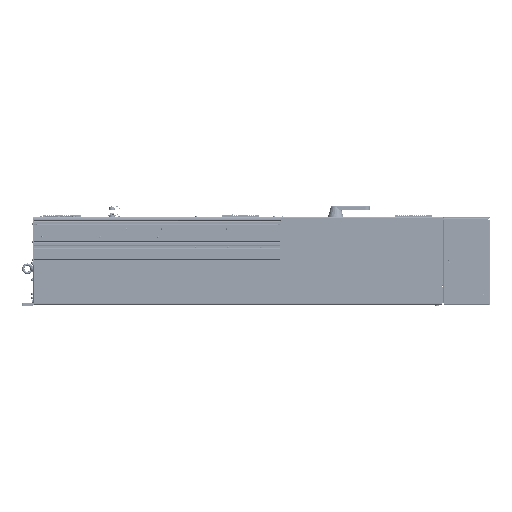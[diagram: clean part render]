
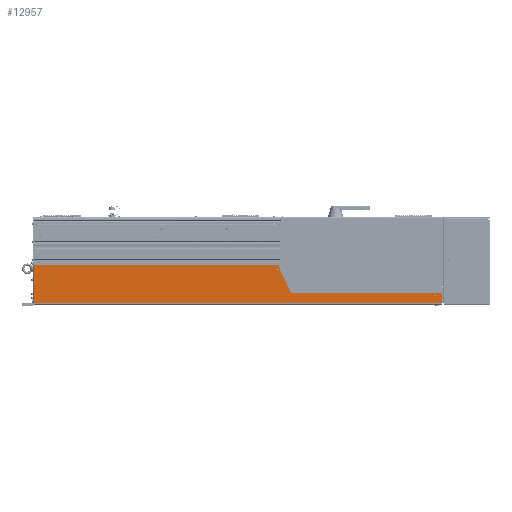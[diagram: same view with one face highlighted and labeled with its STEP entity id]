
A CAD part, left-side view. The second image highlights one B-rep face of the part: STEP entity #12957.
In plain terms, the highlighted planar face has unit normal (-1, 0, 0).
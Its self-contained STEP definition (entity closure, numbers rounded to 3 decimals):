
#4139=DIRECTION('',(0.,-1.,0.));
#4140=VECTOR('',#4139,1723.89);
#4141=CARTESIAN_POINT('',(-205.5,1048.89,4.8));
#4142=LINE('',#4141,#4140);
#6226=CARTESIAN_POINT('',(-205.5,-644.213,60.8));
#6227=DIRECTION('',(-1.,0.,0.));
#6228=DIRECTION('',(0.,0.,-1.));
#6229=AXIS2_PLACEMENT_3D('',#6226,#6227,#6228);
#6234=CARTESIAN_POINT('',(-205.5,-644.213,60.8));
#6235=DIRECTION('',(-1.,0.,0.));
#6236=DIRECTION('',(0.,0.,1.));
#6237=AXIS2_PLACEMENT_3D('',#6234,#6235,#6236);
#6242=CARTESIAN_POINT('',(-205.5,-444.213,60.8));
#6243=DIRECTION('',(-1.,0.,0.));
#6244=DIRECTION('',(0.,0.,-1.));
#6245=AXIS2_PLACEMENT_3D('',#6242,#6243,#6244);
#6250=CARTESIAN_POINT('',(-205.5,-444.213,60.8));
#6251=DIRECTION('',(-1.,0.,0.));
#6252=DIRECTION('',(0.,0.,1.));
#6253=AXIS2_PLACEMENT_3D('',#6250,#6251,#6252);
#6258=CARTESIAN_POINT('',(-205.5,-244.213,60.8));
#6259=DIRECTION('',(-1.,0.,0.));
#6260=DIRECTION('',(0.,0.,-1.));
#6261=AXIS2_PLACEMENT_3D('',#6258,#6259,#6260);
#6266=CARTESIAN_POINT('',(-205.5,-244.213,60.8));
#6267=DIRECTION('',(-1.,0.,0.));
#6268=DIRECTION('',(0.,0.,1.));
#6269=AXIS2_PLACEMENT_3D('',#6266,#6267,#6268);
#6274=CARTESIAN_POINT('',(-205.5,-44.213,60.8));
#6275=DIRECTION('',(-1.,0.,0.));
#6276=DIRECTION('',(0.,0.,-1.));
#6277=AXIS2_PLACEMENT_3D('',#6274,#6275,#6276);
#6282=CARTESIAN_POINT('',(-205.5,-44.213,60.8));
#6283=DIRECTION('',(-1.,0.,0.));
#6284=DIRECTION('',(0.,0.,1.));
#6285=AXIS2_PLACEMENT_3D('',#6282,#6283,#6284);
#6290=CARTESIAN_POINT('',(-205.5,-6.177,142.368));
#6291=DIRECTION('',(-1.,0.,0.));
#6292=DIRECTION('',(0.,1.,0.));
#6293=AXIS2_PLACEMENT_3D('',#6290,#6291,#6292);
#6298=CARTESIAN_POINT('',(-205.5,-6.177,142.368));
#6299=DIRECTION('',(-1.,0.,0.));
#6300=DIRECTION('',(0.,-1.,0.));
#6301=AXIS2_PLACEMENT_3D('',#6298,#6299,#6300);
#6306=CARTESIAN_POINT('',(-205.5,18.,148.));
#6307=DIRECTION('',(-1.,0.,0.));
#6308=DIRECTION('',(0.,0.,-1.));
#6309=AXIS2_PLACEMENT_3D('',#6306,#6307,#6308);
#6314=CARTESIAN_POINT('',(-205.5,18.,148.));
#6315=DIRECTION('',(-1.,0.,0.));
#6316=DIRECTION('',(0.,0.,1.));
#6317=AXIS2_PLACEMENT_3D('',#6314,#6315,#6316);
#6322=CARTESIAN_POINT('',(-205.5,-645.3,37.4));
#6323=DIRECTION('',(-1.,0.,0.));
#6324=DIRECTION('',(0.,0.,-1.));
#6325=AXIS2_PLACEMENT_3D('',#6322,#6323,#6324);
#6330=CARTESIAN_POINT('',(-205.5,-645.3,37.4));
#6331=DIRECTION('',(-1.,0.,0.));
#6332=DIRECTION('',(0.,0.,1.));
#6333=AXIS2_PLACEMENT_3D('',#6330,#6331,#6332);
#6338=CARTESIAN_POINT('',(-205.5,-4.567,165.8));
#6339=DIRECTION('',(-1.,0.,0.));
#6340=DIRECTION('',(0.,-0.83,0.558));
#6341=AXIS2_PLACEMENT_3D('',#6338,#6339,#6340);
#6346=DIRECTION('',(0.,0.689,0.725));
#6347=VECTOR('',#6346,10.546);
#6348=CARTESIAN_POINT('',(-205.5,-50.925,81.793));
#6349=LINE('',#6348,#6347);
#6353=DIRECTION('',(0.,-0.423,-0.906));
#6354=VECTOR('',#6353,3.);
#6355=CARTESIAN_POINT('',(-205.5,-50.925,81.793));
#6356=LINE('',#6355,#6354);
#6360=DIRECTION('',(0.,1.,0.));
#6361=VECTOR('',#6360,3.);
#6362=CARTESIAN_POINT('',(-205.5,-57.821,77.4));
#6363=LINE('',#6362,#6361);
#6367=DIRECTION('',(0.,0.948,0.318));
#6368=VECTOR('',#6367,10.546);
#6369=CARTESIAN_POINT('',(-205.5,-67.821,74.05));
#6370=LINE('',#6369,#6368);
#6374=DIRECTION('',(0.,0.,1.));
#6375=VECTOR('',#6374,69.25);
#6376=CARTESIAN_POINT('',(-205.5,-675.,4.8));
#6377=LINE('',#6376,#6375);
#6381=DIRECTION('',(0.,-1.,0.));
#6382=VECTOR('',#6381,4.567);
#6383=CARTESIAN_POINT('',(-205.5,0.,169.));
#6384=LINE('',#6383,#6382);
#6523=DIRECTION('',(0.,-0.423,-0.906));
#6524=VECTOR('',#6523,86.222);
#6525=CARTESIAN_POINT('',(-205.5,-7.224,167.584));
#6526=LINE('',#6525,#6524);
#6775=CARTESIAN_POINT('',(-205.5,-54.821,80.3));
#6776=DIRECTION('',(1.,0.,0.));
#6777=DIRECTION('',(0.,0.,-1.));
#6778=AXIS2_PLACEMENT_3D('',#6775,#6776,#6777);
#6827=DIRECTION('',(0.,-1.,0.));
#6828=VECTOR('',#6827,607.179);
#6829=CARTESIAN_POINT('',(-205.5,-67.821,74.05));
#6830=LINE('',#6829,#6828);
#7193=DIRECTION('',(0.,1.,0.));
#7194=VECTOR('',#7193,1048.89);
#7195=CARTESIAN_POINT('',(-205.5,0.,169.));
#7196=LINE('',#7195,#7194);
#7252=DIRECTION('',(0.,0.,1.));
#7253=VECTOR('',#7252,164.2);
#7254=CARTESIAN_POINT('',(-205.5,1048.89,4.8));
#7255=LINE('',#7254,#7253);
#7715=CARTESIAN_POINT('',(-205.5,1048.89,4.8));
#7717=VERTEX_POINT('',#7715);
#7718=CARTESIAN_POINT('',(-205.5,-675.,4.8));
#7719=VERTEX_POINT('',#7718);
#7750=CARTESIAN_POINT('',(-205.5,0.,169.));
#7751=CARTESIAN_POINT('',(-205.5,1048.89,169.));
#7752=VERTEX_POINT('',#7750);
#7753=VERTEX_POINT('',#7751);
#7762=CARTESIAN_POINT('',(-205.5,-675.,74.05));
#7763=VERTEX_POINT('',#7762);
#7764=CARTESIAN_POINT('',(-205.5,-67.821,74.05));
#7765=VERTEX_POINT('',#7764);
#7778=CARTESIAN_POINT('',(-205.5,-43.663,89.441));
#7779=VERTEX_POINT('',#7778);
#7930=CARTESIAN_POINT('',(-205.5,-644.213,57.625));
#7931=CARTESIAN_POINT('',(-205.5,-644.213,63.975));
#7932=VERTEX_POINT('',#7930);
#7933=VERTEX_POINT('',#7931);
#7946=CARTESIAN_POINT('',(-205.5,-444.213,57.625));
#7947=CARTESIAN_POINT('',(-205.5,-444.213,63.975));
#7948=VERTEX_POINT('',#7946);
#7949=VERTEX_POINT('',#7947);
#7962=CARTESIAN_POINT('',(-205.5,-244.213,57.625));
#7963=CARTESIAN_POINT('',(-205.5,-244.213,63.975));
#7964=VERTEX_POINT('',#7962);
#7965=VERTEX_POINT('',#7963);
#7978=CARTESIAN_POINT('',(-205.5,-44.213,57.625));
#7979=CARTESIAN_POINT('',(-205.5,-44.213,63.975));
#7980=VERTEX_POINT('',#7978);
#7981=VERTEX_POINT('',#7979);
#7994=CARTESIAN_POINT('',(-205.5,-3.002,142.368));
#7995=CARTESIAN_POINT('',(-205.5,-9.352,142.368));
#7996=VERTEX_POINT('',#7994);
#7997=VERTEX_POINT('',#7995);
#8042=CARTESIAN_POINT('',(-205.5,-7.224,167.584));
#8043=VERTEX_POINT('',#8042);
#8044=CARTESIAN_POINT('',(-205.5,-4.567,169.));
#8045=VERTEX_POINT('',#8044);
#8190=CARTESIAN_POINT('',(-205.5,-54.821,77.4));
#8192=VERTEX_POINT('',#8190);
#8194=CARTESIAN_POINT('',(-205.5,-52.193,79.074));
#8196=VERTEX_POINT('',#8194);
#8210=CARTESIAN_POINT('',(-205.5,-57.821,77.4));
#8211=VERTEX_POINT('',#8210);
#8212=CARTESIAN_POINT('',(-205.5,-50.925,81.793));
#8213=VERTEX_POINT('',#8212);
#8502=CARTESIAN_POINT('',(-205.5,-645.3,34.9));
#8503=CARTESIAN_POINT('',(-205.5,-645.3,39.9));
#8504=VERTEX_POINT('',#8502);
#8505=VERTEX_POINT('',#8503);
#8714=CARTESIAN_POINT('',(-205.5,18.,145.5));
#8715=CARTESIAN_POINT('',(-205.5,18.,150.5));
#8716=VERTEX_POINT('',#8714);
#8717=VERTEX_POINT('',#8715);
#12884=CARTESIAN_POINT('',(-205.5,640.742,0.));
#12885=DIRECTION('',(-1.,0.,0.));
#12886=DIRECTION('',(0.,-1.,0.));
#12887=AXIS2_PLACEMENT_3D('',#12884,#12885,#12886);
#12888=PLANE('',#12887);
#12890=ORIENTED_EDGE('',*,*,#12889,.F.);
#12892=ORIENTED_EDGE('',*,*,#12891,.T.);
#12894=ORIENTED_EDGE('',*,*,#12893,.F.);
#12896=ORIENTED_EDGE('',*,*,#12895,.T.);
#12898=ORIENTED_EDGE('',*,*,#12897,.F.);
#12900=ORIENTED_EDGE('',*,*,#12899,.F.);
#12902=ORIENTED_EDGE('',*,*,#12901,.F.);
#12904=ORIENTED_EDGE('',*,*,#12903,.T.);
#12906=ORIENTED_EDGE('',*,*,#12905,.F.);
#12907=ORIENTED_EDGE('',*,*,#11039,.F.);
#12909=ORIENTED_EDGE('',*,*,#12908,.T.);
#12911=ORIENTED_EDGE('',*,*,#12910,.F.);
#12913=ORIENTED_EDGE('',*,*,#12912,.T.);
#12914=EDGE_LOOP('',(#12890,#12892,#12894,#12896,#12898,#12900,#12902,#12904,
#12906,#12907,#12909,#12911,#12913));
#12915=FACE_OUTER_BOUND('',#12914,.F.);
#12917=ORIENTED_EDGE('',*,*,#12916,.T.);
#12919=ORIENTED_EDGE('',*,*,#12918,.T.);
#12920=EDGE_LOOP('',(#12917,#12919));
#12921=FACE_BOUND('',#12920,.F.);
#12923=ORIENTED_EDGE('',*,*,#12922,.T.);
#12925=ORIENTED_EDGE('',*,*,#12924,.T.);
#12926=EDGE_LOOP('',(#12923,#12925));
#12927=FACE_BOUND('',#12926,.F.);
#12929=ORIENTED_EDGE('',*,*,#12928,.T.);
#12931=ORIENTED_EDGE('',*,*,#12930,.T.);
#12932=EDGE_LOOP('',(#12929,#12931));
#12933=FACE_BOUND('',#12932,.F.);
#12935=ORIENTED_EDGE('',*,*,#12934,.T.);
#12937=ORIENTED_EDGE('',*,*,#12936,.T.);
#12938=EDGE_LOOP('',(#12935,#12937));
#12939=FACE_BOUND('',#12938,.F.);
#12941=ORIENTED_EDGE('',*,*,#12940,.T.);
#12943=ORIENTED_EDGE('',*,*,#12942,.T.);
#12944=EDGE_LOOP('',(#12941,#12943));
#12945=FACE_BOUND('',#12944,.F.);
#12947=ORIENTED_EDGE('',*,*,#12946,.T.);
#12949=ORIENTED_EDGE('',*,*,#12948,.T.);
#12950=EDGE_LOOP('',(#12947,#12949));
#12951=FACE_BOUND('',#12950,.F.);
#12952=ORIENTED_EDGE('',*,*,#12874,.T.);
#12954=ORIENTED_EDGE('',*,*,#12953,.T.);
#12955=EDGE_LOOP('',(#12952,#12954));
#12956=FACE_BOUND('',#12955,.F.);
#12957=ADVANCED_FACE('',(#12915,#12921,#12927,#12933,#12939,#12945,#12951,
#12956),#12888,.T.);
#6230=CIRCLE('',#6229,3.175);
#6238=CIRCLE('',#6237,3.175);
#6246=CIRCLE('',#6245,3.175);
#6254=CIRCLE('',#6253,3.175);
#6262=CIRCLE('',#6261,3.175);
#6270=CIRCLE('',#6269,3.175);
#6278=CIRCLE('',#6277,3.175);
#6286=CIRCLE('',#6285,3.175);
#6294=CIRCLE('',#6293,3.175);
#6302=CIRCLE('',#6301,3.175);
#6310=CIRCLE('',#6309,2.5);
#6318=CIRCLE('',#6317,2.5);
#6326=CIRCLE('',#6325,2.5);
#6334=CIRCLE('',#6333,2.5);
#6342=CIRCLE('',#6341,3.2);
#6779=CIRCLE('',#6778,2.9);
#11039=EDGE_CURVE('',#7717,#7719,#4142,.T.);
#12874=EDGE_CURVE('',#7932,#7933,#6230,.T.);
#12889=EDGE_CURVE('',#8043,#8045,#6342,.T.);
#12891=EDGE_CURVE('',#8043,#7779,#6526,.T.);
#12893=EDGE_CURVE('',#8213,#7779,#6349,.T.);
#12895=EDGE_CURVE('',#8213,#8196,#6356,.T.);
#12897=EDGE_CURVE('',#8192,#8196,#6779,.T.);
#12899=EDGE_CURVE('',#8211,#8192,#6363,.T.);
#12901=EDGE_CURVE('',#7765,#8211,#6370,.T.);
#12903=EDGE_CURVE('',#7765,#7763,#6830,.T.);
#12905=EDGE_CURVE('',#7719,#7763,#6377,.T.);
#12908=EDGE_CURVE('',#7717,#7753,#7255,.T.);
#12910=EDGE_CURVE('',#7752,#7753,#7196,.T.);
#12912=EDGE_CURVE('',#7752,#8045,#6384,.T.);
#12916=EDGE_CURVE('',#7948,#7949,#6246,.T.);
#12918=EDGE_CURVE('',#7949,#7948,#6254,.T.);
#12922=EDGE_CURVE('',#7964,#7965,#6262,.T.);
#12924=EDGE_CURVE('',#7965,#7964,#6270,.T.);
#12928=EDGE_CURVE('',#7980,#7981,#6278,.T.);
#12930=EDGE_CURVE('',#7981,#7980,#6286,.T.);
#12934=EDGE_CURVE('',#7996,#7997,#6294,.T.);
#12936=EDGE_CURVE('',#7997,#7996,#6302,.T.);
#12940=EDGE_CURVE('',#8716,#8717,#6310,.T.);
#12942=EDGE_CURVE('',#8717,#8716,#6318,.T.);
#12946=EDGE_CURVE('',#8504,#8505,#6326,.T.);
#12948=EDGE_CURVE('',#8505,#8504,#6334,.T.);
#12953=EDGE_CURVE('',#7933,#7932,#6238,.T.);
